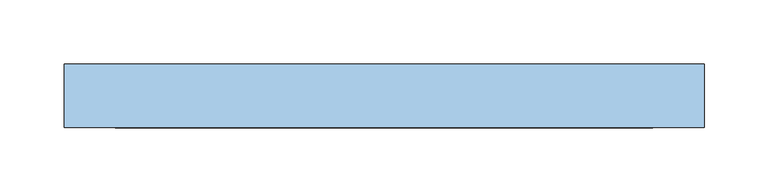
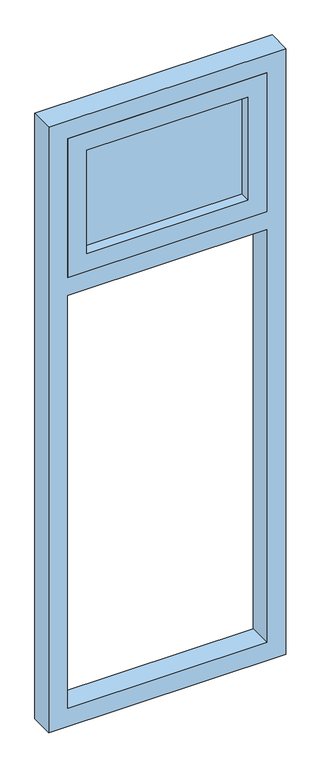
"""IFC4 building model written with IfcOpenShell, lengths in millimetres: window geometry, VENT_ALUM_PROY_ARRIBA : V10-VENT_ALUM_PROY_ARRIBA BAÑO."""

from ifc_helpers import new_model, si_unit, frame, origin, place, context, project, spatial, polyline, outline, extrude, source, transform, mapped, element, save


def window_e71f6d47(model_context):
    return source(origin(), model_context, "Body", "SweptSolid", [
        extrude(outline(polyline([(1810.0, -210.0), (1500.0, -210.0), (1500.0, 210.0), (1810.0, 210.0), (1810.0, -210.0)]), holes=[polyline([(1540.0, -170.0), (1770.0, -170.0), (1770.0, 170.0), (1540.0, 170.0), (1540.0, -170.0)])]), frame((0.0, -25.0, 0.0), z_axis=(0.0, 1.0, 0.0), x_axis=(0.0, 0.0, 1.0)), (0.0, 0.0, 1.0), 50.0),
        extrude(outline(polyline([(210.0, 3.0), (210.0, -3.0), (-210.0, -3.0), (-210.0, 3.0), (210.0, 3.0)])), frame((0.0, 0.0, 1540.0), z_axis=(0.0, 0.0, 1.0), x_axis=(1.0, 0.0, 0.0)), (0.0, 0.0, 1.0), 270.0),
        extrude(outline(polyline([(500.0, -250.0), (500.0, 250.0), (1850.0, 250.0), (1850.0, -250.0), (500.0, -250.0)]), holes=[polyline([(1460.0, 210.0), (540.0, 210.0), (540.0, -210.0), (1460.0, -210.0), (1460.0, 210.0)]), polyline([(1500.0, -210.0), (1810.0, -210.0), (1810.0, 210.0), (1500.0, 210.0), (1500.0, -210.0)])]), frame((0.0, -25.0, 0.0), z_axis=(0.0, 1.0, 0.0), x_axis=(0.0, 0.0, 1.0)), (0.0, 0.0, 1.0), 50.0),
    ])


if __name__ == "__main__":
    model = new_model("IFC4")
    model_context = context("Model", 3, world=origin())
    ifc_project = project(units=[si_unit("LENGTHUNIT", "METRE", prefix="MILLI")], contexts=[model_context])
    site = spatial("IfcSite", under=ifc_project)
    building = spatial("IfcBuilding", under=site)
    placement = place(None, origin())
    window_shape = window_e71f6d47(model_context)
    element("IfcWindow", 1, ObjectType="VENT_ALUM_PROY_ARRIBA : V10-VENT_ALUM_PROY_ARRIBA BAÑO", at=placement, inside=building, context=model_context, shape_type="MappedRepresentation", body=[
        mapped(window_shape, transform((0.0, 0.0, 0.0), x_axis=(1.0, 0.0, 0.0), y_axis=(0.0, 1.0, 0.0), z_axis=(0.0, 0.0, 1.0))),
    ])
    save(model, "model.ifc")
